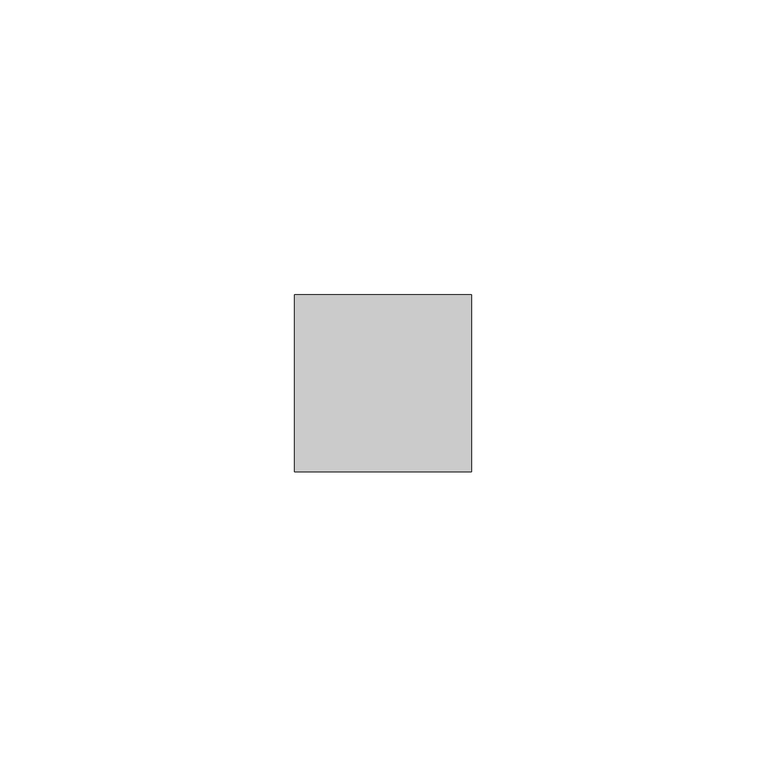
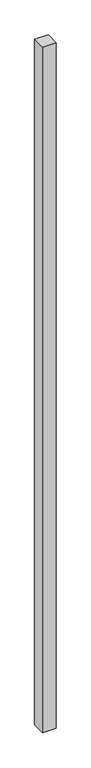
"""IFC4 building model written with IfcOpenShell, lengths in millimetres: member geometry, 矩形竖梃 : 30mm 正方形."""

from ifc_helpers import new_model, si_unit, frame, origin, place, context, project, spatial, polyline, outline, extrude, source, transform, mapped, element, save


def member_83212f8f(model_context):
    return source(origin(), model_context, "Body", "SweptSolid", [
        extrude(outline(polyline([(0.0, 15.0), (0.0, -15.0), (-30.0, -15.0), (-30.0, 15.0), (0.0, 15.0)])), frame((0.0, 0.0, -1600.0), z_axis=(0.0, 0.0, 1.0), x_axis=(1.0, 0.0, 0.0)), (0.0, 0.0, 1.0), 1600.0),
    ])


if __name__ == "__main__":
    model = new_model("IFC4")
    model_context = context("Model", 3, world=origin())
    ifc_project = project(units=[si_unit("LENGTHUNIT", "METRE", prefix="MILLI")], contexts=[model_context])
    site = spatial("IfcSite", under=ifc_project)
    building = spatial("IfcBuilding", under=site)
    placement = place(None, origin())
    member_shape = member_83212f8f(model_context)
    element("IfcMember", 1, ObjectType="矩形竖梃 : 30mm 正方形", at=placement, inside=building, context=model_context, shape_type="MappedRepresentation", body=[
        mapped(member_shape, transform((0.0, 0.0, 0.0), x_axis=(1.0, 0.0, 0.0), y_axis=(0.0, 1.0, 0.0), z_axis=(0.0, 0.0, 1.0))),
    ])
    save(model, "model.ifc")
